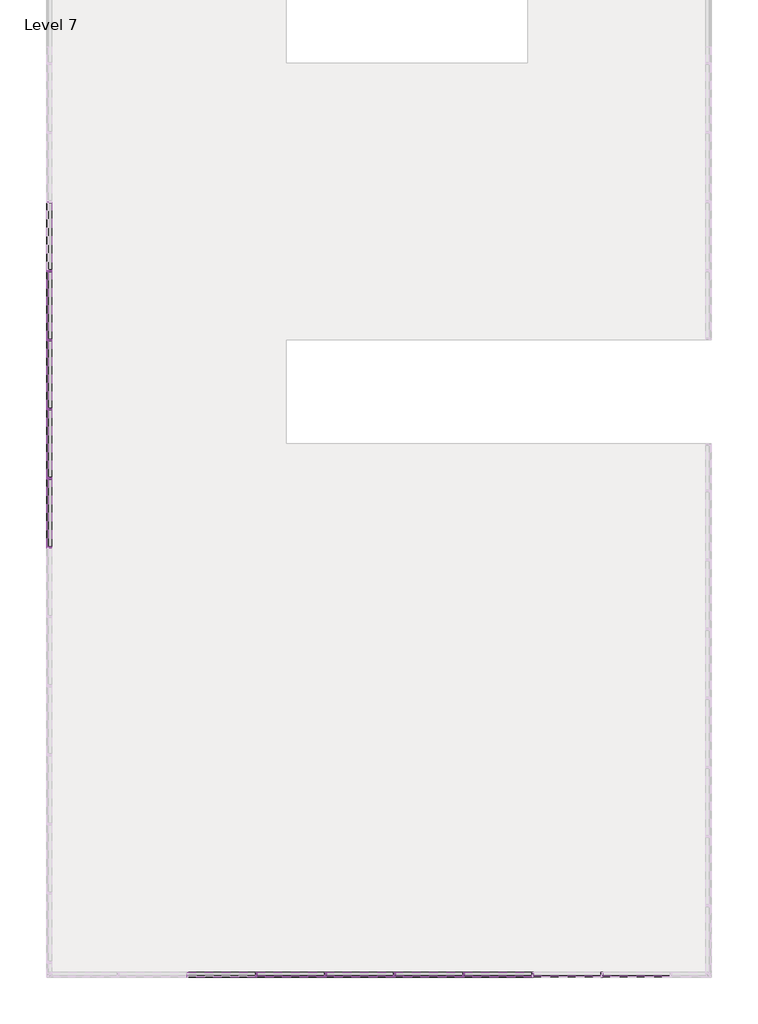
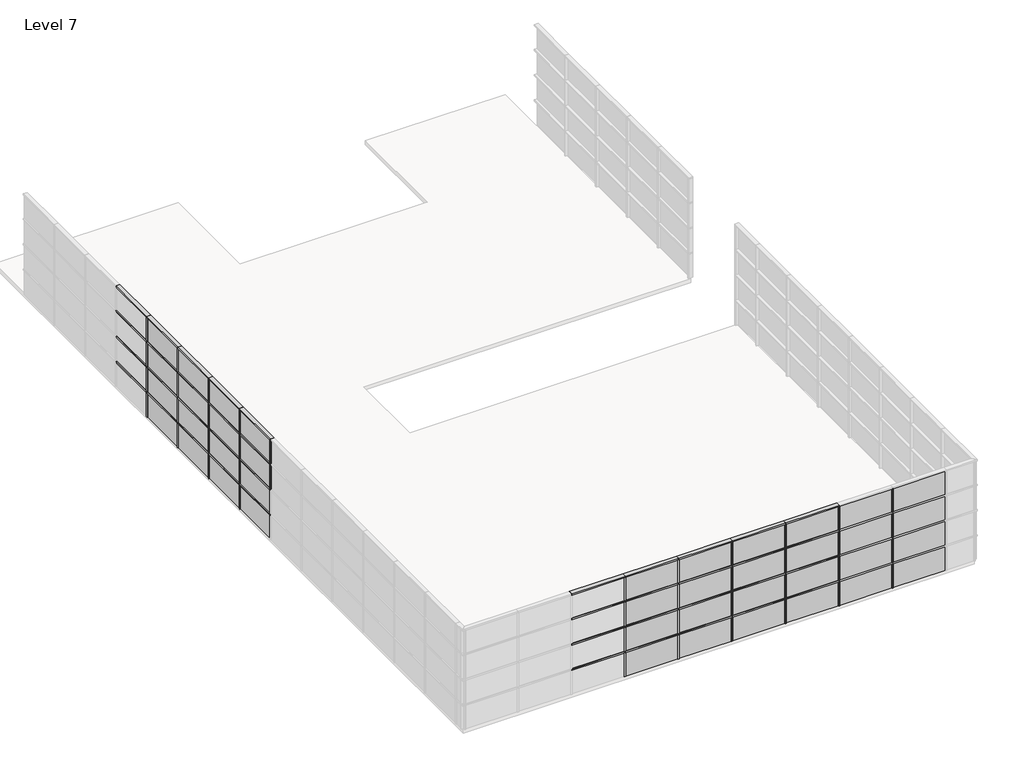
# One storey, part 2 of 5: 82 members, 40 plates.
"""IFC4 building model written with IfcOpenShell, lengths in millimetres."""

from ifc_helpers import new_model, si_unit, origin, place, context, project, spatial, transform, mapped, element, save
from components import rectangular_mullion_50_x_150mm_a053b0ca, rectangular_mullion_50_x_150mm_116cff39, rectangular_mullion_50_x_150mm_aa47fe12, rectangular_mullion_50_x_150mm_3a148f0f, system_panel_glazed_28c32ad2, system_panel_glazed_08de6f5f

model = new_model("IFC4")

# Units and contexts
model_context = context("Model", 3, world=origin())
ifc_project = project(units=[si_unit("LENGTHUNIT", "METRE", prefix="MILLI")], contexts=[model_context])

# Site, building, storey
site = spatial("IfcSite", under=ifc_project)
building = spatial("IfcBuilding", under=site)
storey = spatial("IfcBuildingStorey", under=building, Name="Level 7", Elevation=24000.0)

# Members
placement = place(None, origin())
rectangular_mullion_50_x_150mm_shape = rectangular_mullion_50_x_150mm_a053b0ca(model_context)
element("IfcMember", 1, ObjectType="Rectangular Mullion : 50 x 150mm", at=placement, inside=storey, context=model_context, shape_type="MappedRepresentation", body=[
    mapped(rectangular_mullion_50_x_150mm_shape, transform((412.826594, -21988.7417365, 24025.0), x_axis=(1.0, 0.0, 0.0), y_axis=(0.0, -1.0, 0.0), z_axis=(0.0, 0.0, -0.9999999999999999))),
])
element("IfcMember", 2, ObjectType="Rectangular Mullion : 50 x 150mm", at=placement, inside=storey, context=model_context, shape_type="MappedRepresentation", body=[
    mapped(rectangular_mullion_50_x_150mm_shape, transform((412.826594, -21988.7417365, 25025.0), x_axis=(1.0, 0.0, 0.0), y_axis=(0.0, -1.0, 0.0), z_axis=(0.0, 0.0, -0.9999999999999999))),
])
element("IfcMember", 3, ObjectType="Rectangular Mullion : 50 x 150mm", at=placement, inside=storey, context=model_context, shape_type="MappedRepresentation", body=[
    mapped(rectangular_mullion_50_x_150mm_shape, transform((412.826594, -21988.7417365, 26025.0), x_axis=(1.0, 0.0, 0.0), y_axis=(0.0, -1.0, 0.0), z_axis=(0.0, 0.0, -0.9999999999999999))),
])
element("IfcMember", 4, ObjectType="Rectangular Mullion : 50 x 150mm", at=placement, inside=storey, context=model_context, shape_type="MappedRepresentation", body=[
    mapped(rectangular_mullion_50_x_150mm_shape, transform((2412.826594, -21988.7417365, 24025.0), x_axis=(1.0, 0.0, 0.0), y_axis=(0.0, -1.0, 0.0), z_axis=(0.0, 0.0, -0.9999999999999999))),
])
element("IfcMember", 5, ObjectType="Rectangular Mullion : 50 x 150mm", at=placement, inside=storey, context=model_context, shape_type="MappedRepresentation", body=[
    mapped(rectangular_mullion_50_x_150mm_shape, transform((2412.826594, -21988.7417365, 25025.0), x_axis=(1.0, 0.0, 0.0), y_axis=(0.0, -1.0, 0.0), z_axis=(0.0, 0.0, -0.9999999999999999))),
])
element("IfcMember", 6, ObjectType="Rectangular Mullion : 50 x 150mm", at=placement, inside=storey, context=model_context, shape_type="MappedRepresentation", body=[
    mapped(rectangular_mullion_50_x_150mm_shape, transform((2412.826594, -21988.7417365, 26025.0), x_axis=(1.0, 0.0, 0.0), y_axis=(0.0, -1.0, 0.0), z_axis=(0.0, 0.0, -0.9999999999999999))),
])
element("IfcMember", 7, ObjectType="Rectangular Mullion : 50 x 150mm", at=placement, inside=storey, context=model_context, shape_type="MappedRepresentation", body=[
    mapped(rectangular_mullion_50_x_150mm_shape, transform((4412.826594, -21988.7417365, 24025.0), x_axis=(1.0, 0.0, 0.0), y_axis=(0.0, -1.0, 0.0), z_axis=(0.0, 0.0, -0.9999999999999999))),
])
element("IfcMember", 8, ObjectType="Rectangular Mullion : 50 x 150mm", at=placement, inside=storey, context=model_context, shape_type="MappedRepresentation", body=[
    mapped(rectangular_mullion_50_x_150mm_shape, transform((4412.826594, -21988.7417365, 25025.0), x_axis=(1.0, 0.0, 0.0), y_axis=(0.0, -1.0, 0.0), z_axis=(0.0, 0.0, -0.9999999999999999))),
])
element("IfcMember", 9, ObjectType="Rectangular Mullion : 50 x 150mm", at=placement, inside=storey, context=model_context, shape_type="MappedRepresentation", body=[
    mapped(rectangular_mullion_50_x_150mm_shape, transform((4412.826594, -21988.7417365, 26025.0), x_axis=(1.0, 0.0, 0.0), y_axis=(0.0, -1.0, 0.0), z_axis=(0.0, 0.0, -0.9999999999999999))),
])
element("IfcMember", 10, ObjectType="Rectangular Mullion : 50 x 150mm", at=placement, inside=storey, context=model_context, shape_type="MappedRepresentation", body=[
    mapped(rectangular_mullion_50_x_150mm_shape, transform((6412.826594, -21988.7417365, 24025.0), x_axis=(1.0, 0.0, 0.0), y_axis=(0.0, -1.0, 0.0), z_axis=(0.0, 0.0, -0.9999999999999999))),
])
element("IfcMember", 11, ObjectType="Rectangular Mullion : 50 x 150mm", at=placement, inside=storey, context=model_context, shape_type="MappedRepresentation", body=[
    mapped(rectangular_mullion_50_x_150mm_shape, transform((6412.826594, -21988.7417365, 25025.0), x_axis=(1.0, 0.0, 0.0), y_axis=(0.0, -1.0, 0.0), z_axis=(0.0, 0.0, -0.9999999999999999))),
])
element("IfcMember", 12, ObjectType="Rectangular Mullion : 50 x 150mm", at=placement, inside=storey, context=model_context, shape_type="MappedRepresentation", body=[
    mapped(rectangular_mullion_50_x_150mm_shape, transform((6412.826594, -21988.7417365, 26025.0), x_axis=(1.0, 0.0, 0.0), y_axis=(0.0, -1.0, 0.0), z_axis=(0.0, 0.0, -0.9999999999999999))),
])
element("IfcMember", 13, ObjectType="Rectangular Mullion : 50 x 150mm", at=placement, inside=storey, context=model_context, shape_type="MappedRepresentation", body=[
    mapped(rectangular_mullion_50_x_150mm_shape, transform((8412.826594, -21988.7417365, 24025.0), x_axis=(1.0, 0.0, 0.0), y_axis=(0.0, -1.0, 0.0), z_axis=(0.0, 0.0, -0.9999999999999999))),
])
element("IfcMember", 14, ObjectType="Rectangular Mullion : 50 x 150mm", at=placement, inside=storey, context=model_context, shape_type="MappedRepresentation", body=[
    mapped(rectangular_mullion_50_x_150mm_shape, transform((8412.826594, -21988.7417365, 25025.0), x_axis=(1.0, 0.0, 0.0), y_axis=(0.0, -1.0, 0.0), z_axis=(0.0, 0.0, -0.9999999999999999))),
])
element("IfcMember", 15, ObjectType="Rectangular Mullion : 50 x 150mm", at=placement, inside=storey, context=model_context, shape_type="MappedRepresentation", body=[
    mapped(rectangular_mullion_50_x_150mm_shape, transform((8412.826594, -21988.7417365, 26025.0), x_axis=(1.0, 0.0, 0.0), y_axis=(0.0, -1.0, 0.0), z_axis=(0.0, 0.0, -0.9999999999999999))),
])
element("IfcMember", 16, ObjectType="Rectangular Mullion : 50 x 150mm", at=placement, inside=storey, context=model_context, shape_type="MappedRepresentation", body=[
    mapped(rectangular_mullion_50_x_150mm_shape, transform((10412.826594, -21988.7417365, 24025.0), x_axis=(1.0, 0.0, 0.0), y_axis=(0.0, -1.0, 0.0), z_axis=(0.0, 0.0, -0.9999999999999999))),
])
element("IfcMember", 17, ObjectType="Rectangular Mullion : 50 x 150mm", at=placement, inside=storey, context=model_context, shape_type="MappedRepresentation", body=[
    mapped(rectangular_mullion_50_x_150mm_shape, transform((10412.826594, -21988.7417365, 25025.0), x_axis=(1.0, 0.0, 0.0), y_axis=(0.0, -1.0, 0.0), z_axis=(0.0, 0.0, -0.9999999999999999))),
])
element("IfcMember", 18, ObjectType="Rectangular Mullion : 50 x 150mm", at=placement, inside=storey, context=model_context, shape_type="MappedRepresentation", body=[
    mapped(rectangular_mullion_50_x_150mm_shape, transform((10412.826594, -21988.7417365, 26025.0), x_axis=(1.0, 0.0, 0.0), y_axis=(0.0, -1.0, 0.0), z_axis=(0.0, 0.0, -0.9999999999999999))),
])
element("IfcMember", 19, ObjectType="Rectangular Mullion : 50 x 150mm", at=placement, inside=storey, context=model_context, shape_type="MappedRepresentation", body=[
    mapped(rectangular_mullion_50_x_150mm_shape, transform((-5587.173406, -1624.0160434, 24025.0), x_axis=(0.0, -1.0, 0.0), y_axis=(-1.0, 0.0, 0.0), z_axis=(0.0, 0.0, -0.9999999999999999))),
])
element("IfcMember", 20, ObjectType="Rectangular Mullion : 50 x 150mm", at=placement, inside=storey, context=model_context, shape_type="MappedRepresentation", body=[
    mapped(rectangular_mullion_50_x_150mm_shape, transform((-5587.173406, -1624.0160434, 25025.0), x_axis=(0.0, -1.0, 0.0), y_axis=(-1.0, 0.0, 0.0), z_axis=(0.0, 0.0, -0.9999999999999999))),
])
element("IfcMember", 21, ObjectType="Rectangular Mullion : 50 x 150mm", at=placement, inside=storey, context=model_context, shape_type="MappedRepresentation", body=[
    mapped(rectangular_mullion_50_x_150mm_shape, transform((-5587.173406, -1624.0160434, 26025.0), x_axis=(0.0, -1.0, 0.0), y_axis=(-1.0, 0.0, 0.0), z_axis=(0.0, 0.0, -0.9999999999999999))),
])
element("IfcMember", 22, ObjectType="Rectangular Mullion : 50 x 150mm", at=placement, inside=storey, context=model_context, shape_type="MappedRepresentation", body=[
    mapped(rectangular_mullion_50_x_150mm_shape, transform((-5587.173406, -3624.0160434, 24025.0), x_axis=(0.0, -1.0, 0.0), y_axis=(-1.0, 0.0, 0.0), z_axis=(0.0, 0.0, -0.9999999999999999))),
])
element("IfcMember", 23, ObjectType="Rectangular Mullion : 50 x 150mm", at=placement, inside=storey, context=model_context, shape_type="MappedRepresentation", body=[
    mapped(rectangular_mullion_50_x_150mm_shape, transform((-5587.173406, -3624.0160434, 25025.0), x_axis=(0.0, -1.0, 0.0), y_axis=(-1.0, 0.0, 0.0), z_axis=(0.0, 0.0, -0.9999999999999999))),
])
element("IfcMember", 24, ObjectType="Rectangular Mullion : 50 x 150mm", at=placement, inside=storey, context=model_context, shape_type="MappedRepresentation", body=[
    mapped(rectangular_mullion_50_x_150mm_shape, transform((-5587.173406, -3624.0160434, 26025.0), x_axis=(0.0, -1.0, 0.0), y_axis=(-1.0, 0.0, 0.0), z_axis=(0.0, 0.0, -0.9999999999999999))),
])
element("IfcMember", 25, ObjectType="Rectangular Mullion : 50 x 150mm", at=placement, inside=storey, context=model_context, shape_type="MappedRepresentation", body=[
    mapped(rectangular_mullion_50_x_150mm_shape, transform((-5587.173406, -5624.0160434, 24025.0), x_axis=(0.0, -1.0, 0.0), y_axis=(-1.0, 0.0, 0.0), z_axis=(0.0, 0.0, -0.9999999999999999))),
])
element("IfcMember", 26, ObjectType="Rectangular Mullion : 50 x 150mm", at=placement, inside=storey, context=model_context, shape_type="MappedRepresentation", body=[
    mapped(rectangular_mullion_50_x_150mm_shape, transform((-5587.173406, -5624.0160434, 25025.0), x_axis=(0.0, -1.0, 0.0), y_axis=(-1.0, 0.0, 0.0), z_axis=(0.0, 0.0, -0.9999999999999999))),
])
element("IfcMember", 27, ObjectType="Rectangular Mullion : 50 x 150mm", at=placement, inside=storey, context=model_context, shape_type="MappedRepresentation", body=[
    mapped(rectangular_mullion_50_x_150mm_shape, transform((-5587.173406, -5624.0160434, 26025.0), x_axis=(0.0, -1.0, 0.0), y_axis=(-1.0, 0.0, 0.0), z_axis=(0.0, 0.0, -0.9999999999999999))),
])
element("IfcMember", 28, ObjectType="Rectangular Mullion : 50 x 150mm", at=placement, inside=storey, context=model_context, shape_type="MappedRepresentation", body=[
    mapped(rectangular_mullion_50_x_150mm_shape, transform((-5587.173406, -7624.0160434, 24025.0), x_axis=(0.0, -1.0, 0.0), y_axis=(-1.0, 0.0, 0.0), z_axis=(0.0, 0.0, -0.9999999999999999))),
])
element("IfcMember", 29, ObjectType="Rectangular Mullion : 50 x 150mm", at=placement, inside=storey, context=model_context, shape_type="MappedRepresentation", body=[
    mapped(rectangular_mullion_50_x_150mm_shape, transform((-5587.173406, -7624.0160434, 25025.0), x_axis=(0.0, -1.0, 0.0), y_axis=(-1.0, 0.0, 0.0), z_axis=(0.0, 0.0, -0.9999999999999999))),
])
element("IfcMember", 30, ObjectType="Rectangular Mullion : 50 x 150mm", at=placement, inside=storey, context=model_context, shape_type="MappedRepresentation", body=[
    mapped(rectangular_mullion_50_x_150mm_shape, transform((-5587.173406, -7624.0160434, 26025.0), x_axis=(0.0, -1.0, 0.0), y_axis=(-1.0, 0.0, 0.0), z_axis=(0.0, 0.0, -0.9999999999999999))),
])
element("IfcMember", 31, ObjectType="Rectangular Mullion : 50 x 150mm", at=placement, inside=storey, context=model_context, shape_type="MappedRepresentation", body=[
    mapped(rectangular_mullion_50_x_150mm_shape, transform((-5587.173406, -9624.0160434, 26025.0), x_axis=(0.0, -1.0, 0.0), y_axis=(-1.0, 0.0, 0.0), z_axis=(0.0, 0.0, -0.9999999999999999))),
])
rectangular_mullion_50_x_150mm_2_shape = rectangular_mullion_50_x_150mm_116cff39(model_context)
element("IfcMember", 32, ObjectType="Rectangular Mullion : 50 x 150mm", at=placement, inside=storey, context=model_context, shape_type="MappedRepresentation", body=[
    mapped(rectangular_mullion_50_x_150mm_2_shape, transform((412.826594, -21988.7417365, 27025.0), x_axis=(1.0, 0.0, 0.0), y_axis=(0.0, -1.0, 0.0), z_axis=(0.0, 0.0, -1.0))),
])
element("IfcMember", 33, ObjectType="Rectangular Mullion : 50 x 150mm", at=placement, inside=storey, context=model_context, shape_type="MappedRepresentation", body=[
    mapped(rectangular_mullion_50_x_150mm_2_shape, transform((2412.826594, -21988.7417365, 27025.0), x_axis=(1.0, 0.0, 0.0), y_axis=(0.0, -1.0, 0.0), z_axis=(0.0, 0.0, -1.0))),
])
element("IfcMember", 34, ObjectType="Rectangular Mullion : 50 x 150mm", at=placement, inside=storey, context=model_context, shape_type="MappedRepresentation", body=[
    mapped(rectangular_mullion_50_x_150mm_2_shape, transform((4412.826594, -21988.7417365, 27025.0), x_axis=(1.0, 0.0, 0.0), y_axis=(0.0, -1.0, 0.0), z_axis=(0.0, 0.0, -1.0))),
])
element("IfcMember", 35, ObjectType="Rectangular Mullion : 50 x 150mm", at=placement, inside=storey, context=model_context, shape_type="MappedRepresentation", body=[
    mapped(rectangular_mullion_50_x_150mm_2_shape, transform((6412.826594, -21988.7417365, 27025.0), x_axis=(1.0, 0.0, 0.0), y_axis=(0.0, -1.0, 0.0), z_axis=(0.0, 0.0, -1.0))),
])
element("IfcMember", 36, ObjectType="Rectangular Mullion : 50 x 150mm", at=placement, inside=storey, context=model_context, shape_type="MappedRepresentation", body=[
    mapped(rectangular_mullion_50_x_150mm_2_shape, transform((8412.826594, -21988.7417365, 27025.0), x_axis=(1.0, 0.0, 0.0), y_axis=(0.0, -1.0, 0.0), z_axis=(0.0, 0.0, -1.0))),
])
element("IfcMember", 37, ObjectType="Rectangular Mullion : 50 x 150mm", at=placement, inside=storey, context=model_context, shape_type="MappedRepresentation", body=[
    mapped(rectangular_mullion_50_x_150mm_2_shape, transform((10412.826594, -21988.7417365, 27025.0), x_axis=(1.0, 0.0, 0.0), y_axis=(0.0, -1.0, 0.0), z_axis=(0.0, 0.0, -1.0))),
])
element("IfcMember", 38, ObjectType="Rectangular Mullion : 50 x 150mm", at=placement, inside=storey, context=model_context, shape_type="MappedRepresentation", body=[
    mapped(rectangular_mullion_50_x_150mm_2_shape, transform((-5587.173406, -1624.0160434, 27025.0), x_axis=(0.0, -1.0, 0.0), y_axis=(-1.0, 0.0, 0.0), z_axis=(0.0, 0.0, -1.0))),
])
element("IfcMember", 39, ObjectType="Rectangular Mullion : 50 x 150mm", at=placement, inside=storey, context=model_context, shape_type="MappedRepresentation", body=[
    mapped(rectangular_mullion_50_x_150mm_2_shape, transform((-5587.173406, -3624.0160434, 27025.0), x_axis=(0.0, -1.0, 0.0), y_axis=(-1.0, 0.0, 0.0), z_axis=(0.0, 0.0, -1.0))),
])
element("IfcMember", 40, ObjectType="Rectangular Mullion : 50 x 150mm", at=placement, inside=storey, context=model_context, shape_type="MappedRepresentation", body=[
    mapped(rectangular_mullion_50_x_150mm_2_shape, transform((-5587.173406, -5624.0160434, 27025.0), x_axis=(0.0, -1.0, 0.0), y_axis=(-1.0, 0.0, 0.0), z_axis=(0.0, 0.0, -1.0))),
])
element("IfcMember", 41, ObjectType="Rectangular Mullion : 50 x 150mm", at=placement, inside=storey, context=model_context, shape_type="MappedRepresentation", body=[
    mapped(rectangular_mullion_50_x_150mm_2_shape, transform((-5587.173406, -7624.0160434, 27025.0), x_axis=(0.0, -1.0, 0.0), y_axis=(-1.0, 0.0, 0.0), z_axis=(0.0, 0.0, -1.0))),
])
element("IfcMember", 42, ObjectType="Rectangular Mullion : 50 x 150mm", at=placement, inside=storey, context=model_context, shape_type="MappedRepresentation", body=[
    mapped(rectangular_mullion_50_x_150mm_2_shape, transform((-5587.173406, -9624.0160434, 27025.0), x_axis=(0.0, -1.0, 0.0), y_axis=(-1.0, 0.0, 0.0), z_axis=(0.0, 0.0, -1.0))),
])
rectangular_mullion_50_x_150mm_3_shape = rectangular_mullion_50_x_150mm_aa47fe12(model_context)
element("IfcMember", 43, ObjectType="Rectangular Mullion : 50 x 150mm", at=placement, inside=storey, context=model_context, shape_type="MappedRepresentation", body=[
    mapped(rectangular_mullion_50_x_150mm_3_shape, transform((412.826594, -21988.7417365, 28000.0), x_axis=(0.0, 0.0, 1.0), y_axis=(0.0, -1.0, 0.0), z_axis=(1.0, 0.0, 0.0))),
])
element("IfcMember", 44, ObjectType="Rectangular Mullion : 50 x 150mm", at=placement, inside=storey, context=model_context, shape_type="MappedRepresentation", body=[
    mapped(rectangular_mullion_50_x_150mm_3_shape, transform((2412.826594, -21988.7417365, 28000.0), x_axis=(0.0, 0.0, 1.0), y_axis=(0.0, -1.0, 0.0), z_axis=(1.0, 0.0, 0.0))),
])
element("IfcMember", 45, ObjectType="Rectangular Mullion : 50 x 150mm", at=placement, inside=storey, context=model_context, shape_type="MappedRepresentation", body=[
    mapped(rectangular_mullion_50_x_150mm_3_shape, transform((4412.826594, -21988.7417365, 28000.0), x_axis=(0.0, 0.0, 1.0), y_axis=(0.0, -1.0, 0.0), z_axis=(1.0, 0.0, 0.0))),
])
element("IfcMember", 46, ObjectType="Rectangular Mullion : 50 x 150mm", at=placement, inside=storey, context=model_context, shape_type="MappedRepresentation", body=[
    mapped(rectangular_mullion_50_x_150mm_3_shape, transform((6412.826594, -21988.7417365, 28000.0), x_axis=(0.0, 0.0, 1.0), y_axis=(0.0, -1.0, 0.0), z_axis=(1.0, 0.0, 0.0))),
])
element("IfcMember", 47, ObjectType="Rectangular Mullion : 50 x 150mm", at=placement, inside=storey, context=model_context, shape_type="MappedRepresentation", body=[
    mapped(rectangular_mullion_50_x_150mm_3_shape, transform((8412.826594, -21988.7417365, 28000.0), x_axis=(0.0, 0.0, 1.0), y_axis=(0.0, -1.0, 0.0), z_axis=(1.0, 0.0, 0.0))),
])
element("IfcMember", 48, ObjectType="Rectangular Mullion : 50 x 150mm", at=placement, inside=storey, context=model_context, shape_type="MappedRepresentation", body=[
    mapped(rectangular_mullion_50_x_150mm_3_shape, transform((-5587.173406, -1624.0160434, 28000.0), x_axis=(0.0, 0.0, 1.0), y_axis=(-1.0, 0.0, 0.0), z_axis=(0.0, -1.0, 0.0))),
])
element("IfcMember", 49, ObjectType="Rectangular Mullion : 50 x 150mm", at=placement, inside=storey, context=model_context, shape_type="MappedRepresentation", body=[
    mapped(rectangular_mullion_50_x_150mm_3_shape, transform((-5587.173406, -3624.0160434, 28000.0), x_axis=(0.0, 0.0, 1.0), y_axis=(-1.0, 0.0, 0.0), z_axis=(0.0, -1.0, 0.0))),
])
element("IfcMember", 50, ObjectType="Rectangular Mullion : 50 x 150mm", at=placement, inside=storey, context=model_context, shape_type="MappedRepresentation", body=[
    mapped(rectangular_mullion_50_x_150mm_3_shape, transform((-5587.173406, -5624.0160434, 28000.0), x_axis=(0.0, 0.0, 1.0), y_axis=(-1.0, 0.0, 0.0), z_axis=(0.0, -1.0, 0.0))),
])
element("IfcMember", 51, ObjectType="Rectangular Mullion : 50 x 150mm", at=placement, inside=storey, context=model_context, shape_type="MappedRepresentation", body=[
    mapped(rectangular_mullion_50_x_150mm_3_shape, transform((-5587.173406, -7624.0160434, 28000.0), x_axis=(0.0, 0.0, 1.0), y_axis=(-1.0, 0.0, 0.0), z_axis=(0.0, -1.0, 0.0))),
])
element("IfcMember", 52, ObjectType="Rectangular Mullion : 50 x 150mm", at=placement, inside=storey, context=model_context, shape_type="MappedRepresentation", body=[
    mapped(rectangular_mullion_50_x_150mm_3_shape, transform((-5587.173406, -9624.0160434, 28000.0), x_axis=(0.0, 0.0, 1.0), y_axis=(-1.0, 0.0, 0.0), z_axis=(0.0, -1.0, 0.0))),
])
rectangular_mullion_50_x_150mm_4_shape = rectangular_mullion_50_x_150mm_3a148f0f(model_context)
element("IfcMember", 53, ObjectType="Rectangular Mullion : 50 x 150mm", at=placement, inside=storey, context=model_context, shape_type="MappedRepresentation", body=[
    mapped(rectangular_mullion_50_x_150mm_4_shape, transform((412.826594, -21988.7417365, 25000.0), x_axis=(0.0, 0.0, 1.0), y_axis=(0.0, -1.0, 0.0), z_axis=(1.0, 0.0, 0.0))),
])
element("IfcMember", 54, ObjectType="Rectangular Mullion : 50 x 150mm", at=placement, inside=storey, context=model_context, shape_type="MappedRepresentation", body=[
    mapped(rectangular_mullion_50_x_150mm_4_shape, transform((2412.826594, -21988.7417365, 25000.0), x_axis=(0.0, 0.0, 1.0), y_axis=(0.0, -1.0, 0.0), z_axis=(1.0, 0.0, 0.0))),
])
element("IfcMember", 55, ObjectType="Rectangular Mullion : 50 x 150mm", at=placement, inside=storey, context=model_context, shape_type="MappedRepresentation", body=[
    mapped(rectangular_mullion_50_x_150mm_4_shape, transform((4412.826594, -21988.7417365, 25000.0), x_axis=(0.0, 0.0, 1.0), y_axis=(0.0, -1.0, 0.0), z_axis=(1.0, 0.0, 0.0))),
])
element("IfcMember", 56, ObjectType="Rectangular Mullion : 50 x 150mm", at=placement, inside=storey, context=model_context, shape_type="MappedRepresentation", body=[
    mapped(rectangular_mullion_50_x_150mm_4_shape, transform((6412.826594, -21988.7417365, 25000.0), x_axis=(0.0, 0.0, 1.0), y_axis=(0.0, -1.0, 0.0), z_axis=(1.0, 0.0, 0.0))),
])
element("IfcMember", 57, ObjectType="Rectangular Mullion : 50 x 150mm", at=placement, inside=storey, context=model_context, shape_type="MappedRepresentation", body=[
    mapped(rectangular_mullion_50_x_150mm_4_shape, transform((8412.826594, -21988.7417365, 25000.0), x_axis=(0.0, 0.0, 1.0), y_axis=(0.0, -1.0, 0.0), z_axis=(1.0, 0.0, 0.0))),
])
element("IfcMember", 58, ObjectType="Rectangular Mullion : 50 x 150mm", at=placement, inside=storey, context=model_context, shape_type="MappedRepresentation", body=[
    mapped(rectangular_mullion_50_x_150mm_4_shape, transform((412.826594, -21988.7417365, 26000.0), x_axis=(0.0, 0.0, 1.0), y_axis=(0.0, -1.0, 0.0), z_axis=(1.0, 0.0, 0.0))),
])
element("IfcMember", 59, ObjectType="Rectangular Mullion : 50 x 150mm", at=placement, inside=storey, context=model_context, shape_type="MappedRepresentation", body=[
    mapped(rectangular_mullion_50_x_150mm_4_shape, transform((2412.826594, -21988.7417365, 26000.0), x_axis=(0.0, 0.0, 1.0), y_axis=(0.0, -1.0, 0.0), z_axis=(1.0, 0.0, 0.0))),
])
element("IfcMember", 60, ObjectType="Rectangular Mullion : 50 x 150mm", at=placement, inside=storey, context=model_context, shape_type="MappedRepresentation", body=[
    mapped(rectangular_mullion_50_x_150mm_4_shape, transform((4412.826594, -21988.7417365, 26000.0), x_axis=(0.0, 0.0, 1.0), y_axis=(0.0, -1.0, 0.0), z_axis=(1.0, 0.0, 0.0))),
])
element("IfcMember", 61, ObjectType="Rectangular Mullion : 50 x 150mm", at=placement, inside=storey, context=model_context, shape_type="MappedRepresentation", body=[
    mapped(rectangular_mullion_50_x_150mm_4_shape, transform((6412.826594, -21988.7417365, 26000.0), x_axis=(0.0, 0.0, 1.0), y_axis=(0.0, -1.0, 0.0), z_axis=(1.0, 0.0, 0.0))),
])
element("IfcMember", 62, ObjectType="Rectangular Mullion : 50 x 150mm", at=placement, inside=storey, context=model_context, shape_type="MappedRepresentation", body=[
    mapped(rectangular_mullion_50_x_150mm_4_shape, transform((8412.826594, -21988.7417365, 26000.0), x_axis=(0.0, 0.0, 1.0), y_axis=(0.0, -1.0, 0.0), z_axis=(1.0, 0.0, 0.0))),
])
element("IfcMember", 63, ObjectType="Rectangular Mullion : 50 x 150mm", at=placement, inside=storey, context=model_context, shape_type="MappedRepresentation", body=[
    mapped(rectangular_mullion_50_x_150mm_4_shape, transform((412.826594, -21988.7417365, 27000.0), x_axis=(0.0, 0.0, 1.0), y_axis=(0.0, -1.0, 0.0), z_axis=(1.0, 0.0, 0.0))),
])
element("IfcMember", 64, ObjectType="Rectangular Mullion : 50 x 150mm", at=placement, inside=storey, context=model_context, shape_type="MappedRepresentation", body=[
    mapped(rectangular_mullion_50_x_150mm_4_shape, transform((2412.826594, -21988.7417365, 27000.0), x_axis=(0.0, 0.0, 1.0), y_axis=(0.0, -1.0, 0.0), z_axis=(1.0, 0.0, 0.0))),
])
element("IfcMember", 65, ObjectType="Rectangular Mullion : 50 x 150mm", at=placement, inside=storey, context=model_context, shape_type="MappedRepresentation", body=[
    mapped(rectangular_mullion_50_x_150mm_4_shape, transform((4412.826594, -21988.7417365, 27000.0), x_axis=(0.0, 0.0, 1.0), y_axis=(0.0, -1.0, 0.0), z_axis=(1.0, 0.0, 0.0))),
])
element("IfcMember", 66, ObjectType="Rectangular Mullion : 50 x 150mm", at=placement, inside=storey, context=model_context, shape_type="MappedRepresentation", body=[
    mapped(rectangular_mullion_50_x_150mm_4_shape, transform((6412.826594, -21988.7417365, 27000.0), x_axis=(0.0, 0.0, 1.0), y_axis=(0.0, -1.0, 0.0), z_axis=(1.0, 0.0, 0.0))),
])
element("IfcMember", 67, ObjectType="Rectangular Mullion : 50 x 150mm", at=placement, inside=storey, context=model_context, shape_type="MappedRepresentation", body=[
    mapped(rectangular_mullion_50_x_150mm_4_shape, transform((8412.826594, -21988.7417365, 27000.0), x_axis=(0.0, 0.0, 1.0), y_axis=(0.0, -1.0, 0.0), z_axis=(1.0, 0.0, 0.0))),
])
element("IfcMember", 68, ObjectType="Rectangular Mullion : 50 x 150mm", at=placement, inside=storey, context=model_context, shape_type="MappedRepresentation", body=[
    mapped(rectangular_mullion_50_x_150mm_4_shape, transform((-5587.173406, -1624.0160434, 25000.0), x_axis=(0.0, 0.0, 1.0), y_axis=(-1.0, 0.0, 0.0), z_axis=(0.0, -1.0, 0.0))),
])
element("IfcMember", 69, ObjectType="Rectangular Mullion : 50 x 150mm", at=placement, inside=storey, context=model_context, shape_type="MappedRepresentation", body=[
    mapped(rectangular_mullion_50_x_150mm_4_shape, transform((-5587.173406, -3624.0160434, 25000.0), x_axis=(0.0, 0.0, 1.0), y_axis=(-1.0, 0.0, 0.0), z_axis=(0.0, -1.0, 0.0))),
])
element("IfcMember", 70, ObjectType="Rectangular Mullion : 50 x 150mm", at=placement, inside=storey, context=model_context, shape_type="MappedRepresentation", body=[
    mapped(rectangular_mullion_50_x_150mm_4_shape, transform((-5587.173406, -5624.0160434, 25000.0), x_axis=(0.0, 0.0, 1.0), y_axis=(-1.0, 0.0, 0.0), z_axis=(0.0, -1.0, 0.0))),
])
element("IfcMember", 71, ObjectType="Rectangular Mullion : 50 x 150mm", at=placement, inside=storey, context=model_context, shape_type="MappedRepresentation", body=[
    mapped(rectangular_mullion_50_x_150mm_4_shape, transform((-5587.173406, -7624.0160434, 25000.0), x_axis=(0.0, 0.0, 1.0), y_axis=(-1.0, 0.0, 0.0), z_axis=(0.0, -1.0, 0.0))),
])
element("IfcMember", 72, ObjectType="Rectangular Mullion : 50 x 150mm", at=placement, inside=storey, context=model_context, shape_type="MappedRepresentation", body=[
    mapped(rectangular_mullion_50_x_150mm_4_shape, transform((-5587.173406, -9624.0160434, 25000.0), x_axis=(0.0, 0.0, 1.0), y_axis=(-1.0, 0.0, 0.0), z_axis=(0.0, -1.0, 0.0))),
])
element("IfcMember", 73, ObjectType="Rectangular Mullion : 50 x 150mm", at=placement, inside=storey, context=model_context, shape_type="MappedRepresentation", body=[
    mapped(rectangular_mullion_50_x_150mm_4_shape, transform((-5587.173406, -1624.0160434, 26000.0), x_axis=(0.0, 0.0, 1.0), y_axis=(-1.0, 0.0, 0.0), z_axis=(0.0, -1.0, 0.0))),
])
element("IfcMember", 74, ObjectType="Rectangular Mullion : 50 x 150mm", at=placement, inside=storey, context=model_context, shape_type="MappedRepresentation", body=[
    mapped(rectangular_mullion_50_x_150mm_4_shape, transform((-5587.173406, -3624.0160434, 26000.0), x_axis=(0.0, 0.0, 1.0), y_axis=(-1.0, 0.0, 0.0), z_axis=(0.0, -1.0, 0.0))),
])
element("IfcMember", 75, ObjectType="Rectangular Mullion : 50 x 150mm", at=placement, inside=storey, context=model_context, shape_type="MappedRepresentation", body=[
    mapped(rectangular_mullion_50_x_150mm_4_shape, transform((-5587.173406, -5624.0160434, 26000.0), x_axis=(0.0, 0.0, 1.0), y_axis=(-1.0, 0.0, 0.0), z_axis=(0.0, -1.0, 0.0))),
])
element("IfcMember", 76, ObjectType="Rectangular Mullion : 50 x 150mm", at=placement, inside=storey, context=model_context, shape_type="MappedRepresentation", body=[
    mapped(rectangular_mullion_50_x_150mm_4_shape, transform((-5587.173406, -7624.0160434, 26000.0), x_axis=(0.0, 0.0, 1.0), y_axis=(-1.0, 0.0, 0.0), z_axis=(0.0, -1.0, 0.0))),
])
element("IfcMember", 77, ObjectType="Rectangular Mullion : 50 x 150mm", at=placement, inside=storey, context=model_context, shape_type="MappedRepresentation", body=[
    mapped(rectangular_mullion_50_x_150mm_4_shape, transform((-5587.173406, -9624.0160434, 26000.0), x_axis=(0.0, 0.0, 1.0), y_axis=(-1.0, 0.0, 0.0), z_axis=(0.0, -1.0, 0.0))),
])
element("IfcMember", 78, ObjectType="Rectangular Mullion : 50 x 150mm", at=placement, inside=storey, context=model_context, shape_type="MappedRepresentation", body=[
    mapped(rectangular_mullion_50_x_150mm_4_shape, transform((-5587.173406, -1624.0160434, 27000.0), x_axis=(0.0, 0.0, 1.0), y_axis=(-1.0, 0.0, 0.0), z_axis=(0.0, -1.0, 0.0))),
])
element("IfcMember", 79, ObjectType="Rectangular Mullion : 50 x 150mm", at=placement, inside=storey, context=model_context, shape_type="MappedRepresentation", body=[
    mapped(rectangular_mullion_50_x_150mm_4_shape, transform((-5587.173406, -3624.0160434, 27000.0), x_axis=(0.0, 0.0, 1.0), y_axis=(-1.0, 0.0, 0.0), z_axis=(0.0, -1.0, 0.0))),
])
element("IfcMember", 80, ObjectType="Rectangular Mullion : 50 x 150mm", at=placement, inside=storey, context=model_context, shape_type="MappedRepresentation", body=[
    mapped(rectangular_mullion_50_x_150mm_4_shape, transform((-5587.173406, -5624.0160434, 27000.0), x_axis=(0.0, 0.0, 1.0), y_axis=(-1.0, 0.0, 0.0), z_axis=(0.0, -1.0, 0.0))),
])
element("IfcMember", 81, ObjectType="Rectangular Mullion : 50 x 150mm", at=placement, inside=storey, context=model_context, shape_type="MappedRepresentation", body=[
    mapped(rectangular_mullion_50_x_150mm_4_shape, transform((-5587.173406, -7624.0160434, 27000.0), x_axis=(0.0, 0.0, 1.0), y_axis=(-1.0, 0.0, 0.0), z_axis=(0.0, -1.0, 0.0))),
])
element("IfcMember", 82, ObjectType="Rectangular Mullion : 50 x 150mm", at=placement, inside=storey, context=model_context, shape_type="MappedRepresentation", body=[
    mapped(rectangular_mullion_50_x_150mm_4_shape, transform((-5587.173406, -9624.0160434, 27000.0), x_axis=(0.0, 0.0, 1.0), y_axis=(-1.0, 0.0, 0.0), z_axis=(0.0, -1.0, 0.0))),
])

# Plates
system_panel_glazed_shape = system_panel_glazed_28c32ad2(model_context)
element("IfcPlate", 83, ObjectType="System Panel : Glazed", at=placement, inside=storey, context=model_context, shape_type="MappedRepresentation", body=[
    mapped(system_panel_glazed_shape, transform((-5587.173406, -1649.0160434, 27487.5), x_axis=(0.0, 0.0, 1.0), y_axis=(-1.0, 0.0, 0.0), z_axis=(0.0, -1.0, 0.0))),
])
element("IfcPlate", 84, ObjectType="System Panel : Glazed", at=placement, inside=storey, context=model_context, shape_type="MappedRepresentation", body=[
    mapped(system_panel_glazed_shape, transform((-5587.173406, -3649.0160434, 27487.5), x_axis=(0.0, 0.0, 1.0), y_axis=(-1.0, 0.0, 0.0), z_axis=(0.0, -1.0, 0.0))),
])
element("IfcPlate", 85, ObjectType="System Panel : Glazed", at=placement, inside=storey, context=model_context, shape_type="MappedRepresentation", body=[
    mapped(system_panel_glazed_shape, transform((-5587.173406, -5649.0160434, 27487.5), x_axis=(0.0, 0.0, 1.0), y_axis=(-1.0, 0.0, 0.0), z_axis=(0.0, -1.0, 0.0))),
])
element("IfcPlate", 86, ObjectType="System Panel : Glazed", at=placement, inside=storey, context=model_context, shape_type="MappedRepresentation", body=[
    mapped(system_panel_glazed_shape, transform((-5587.173406, -7649.0160434, 27487.5), x_axis=(0.0, 0.0, 1.0), y_axis=(-1.0, 0.0, 0.0), z_axis=(0.0, -1.0, 0.0))),
])
element("IfcPlate", 87, ObjectType="System Panel : Glazed", at=placement, inside=storey, context=model_context, shape_type="MappedRepresentation", body=[
    mapped(system_panel_glazed_shape, transform((437.826594, -21988.7417365, 27487.5), x_axis=(0.0, 0.0, 1.0), y_axis=(0.0, -1.0, 0.0), z_axis=(1.0, 0.0, 0.0))),
])
element("IfcPlate", 88, ObjectType="System Panel : Glazed", at=placement, inside=storey, context=model_context, shape_type="MappedRepresentation", body=[
    mapped(system_panel_glazed_shape, transform((2437.826594, -21988.7417365, 27487.5), x_axis=(0.0, 0.0, 1.0), y_axis=(0.0, -1.0, 0.0), z_axis=(1.0, 0.0, 0.0))),
])
element("IfcPlate", 89, ObjectType="System Panel : Glazed", at=placement, inside=storey, context=model_context, shape_type="MappedRepresentation", body=[
    mapped(system_panel_glazed_shape, transform((4437.826594, -21988.7417365, 27487.5), x_axis=(0.0, 0.0, 1.0), y_axis=(0.0, -1.0, 0.0), z_axis=(1.0, 0.0, 0.0))),
])
element("IfcPlate", 90, ObjectType="System Panel : Glazed", at=placement, inside=storey, context=model_context, shape_type="MappedRepresentation", body=[
    mapped(system_panel_glazed_shape, transform((6437.826594, -21988.7417365, 27487.5), x_axis=(0.0, 0.0, 1.0), y_axis=(0.0, -1.0, 0.0), z_axis=(1.0, 0.0, 0.0))),
])
element("IfcPlate", 91, ObjectType="System Panel : Glazed", at=placement, inside=storey, context=model_context, shape_type="MappedRepresentation", body=[
    mapped(system_panel_glazed_shape, transform((8437.826594, -21988.7417365, 27487.5), x_axis=(0.0, 0.0, 1.0), y_axis=(0.0, -1.0, 0.0), z_axis=(1.0, 0.0, 0.0))),
])
element("IfcPlate", 92, ObjectType="System Panel : Glazed", at=placement, inside=storey, context=model_context, shape_type="MappedRepresentation", body=[
    mapped(system_panel_glazed_shape, transform((10437.826594, -21988.7417365, 27487.5), x_axis=(0.0, 0.0, 1.0), y_axis=(0.0, -1.0, 0.0), z_axis=(1.0, 0.0, 0.0))),
])
system_panel_glazed_2_shape = system_panel_glazed_08de6f5f(model_context)
element("IfcPlate", 93, ObjectType="System Panel : Glazed", at=placement, inside=storey, context=model_context, shape_type="MappedRepresentation", body=[
    mapped(system_panel_glazed_2_shape, transform((-5587.173406, -1649.0160434, 24500.0), x_axis=(0.0, 0.0, 1.0), y_axis=(-1.0, 0.0, 0.0), z_axis=(0.0, -1.0, 0.0))),
])
element("IfcPlate", 94, ObjectType="System Panel : Glazed", at=placement, inside=storey, context=model_context, shape_type="MappedRepresentation", body=[
    mapped(system_panel_glazed_2_shape, transform((-5587.173406, -3649.0160434, 24500.0), x_axis=(0.0, 0.0, 1.0), y_axis=(-1.0, 0.0, 0.0), z_axis=(0.0, -1.0, 0.0))),
])
element("IfcPlate", 95, ObjectType="System Panel : Glazed", at=placement, inside=storey, context=model_context, shape_type="MappedRepresentation", body=[
    mapped(system_panel_glazed_2_shape, transform((-5587.173406, -5649.0160434, 24500.0), x_axis=(0.0, 0.0, 1.0), y_axis=(-1.0, 0.0, 0.0), z_axis=(0.0, -1.0, 0.0))),
])
element("IfcPlate", 96, ObjectType="System Panel : Glazed", at=placement, inside=storey, context=model_context, shape_type="MappedRepresentation", body=[
    mapped(system_panel_glazed_2_shape, transform((-5587.173406, -7649.0160434, 24500.0), x_axis=(0.0, 0.0, 1.0), y_axis=(-1.0, 0.0, 0.0), z_axis=(0.0, -1.0, 0.0))),
])
element("IfcPlate", 97, ObjectType="System Panel : Glazed", at=placement, inside=storey, context=model_context, shape_type="MappedRepresentation", body=[
    mapped(system_panel_glazed_2_shape, transform((-5587.173406, -1649.0160434, 25500.0), x_axis=(0.0, 0.0, 1.0), y_axis=(-1.0, 0.0, 0.0), z_axis=(0.0, -1.0, 0.0))),
])
element("IfcPlate", 98, ObjectType="System Panel : Glazed", at=placement, inside=storey, context=model_context, shape_type="MappedRepresentation", body=[
    mapped(system_panel_glazed_2_shape, transform((-5587.173406, -3649.0160434, 25500.0), x_axis=(0.0, 0.0, 1.0), y_axis=(-1.0, 0.0, 0.0), z_axis=(0.0, -1.0, 0.0))),
])
element("IfcPlate", 99, ObjectType="System Panel : Glazed", at=placement, inside=storey, context=model_context, shape_type="MappedRepresentation", body=[
    mapped(system_panel_glazed_2_shape, transform((-5587.173406, -5649.0160434, 25500.0), x_axis=(0.0, 0.0, 1.0), y_axis=(-1.0, 0.0, 0.0), z_axis=(0.0, -1.0, 0.0))),
])
element("IfcPlate", 100, ObjectType="System Panel : Glazed", at=placement, inside=storey, context=model_context, shape_type="MappedRepresentation", body=[
    mapped(system_panel_glazed_2_shape, transform((-5587.173406, -7649.0160434, 25500.0), x_axis=(0.0, 0.0, 1.0), y_axis=(-1.0, 0.0, 0.0), z_axis=(0.0, -1.0, 0.0))),
])
element("IfcPlate", 101, ObjectType="System Panel : Glazed", at=placement, inside=storey, context=model_context, shape_type="MappedRepresentation", body=[
    mapped(system_panel_glazed_2_shape, transform((-5587.173406, -1649.0160434, 26500.0), x_axis=(0.0, 0.0, 1.0), y_axis=(-1.0, 0.0, 0.0), z_axis=(0.0, -1.0, 0.0))),
])
element("IfcPlate", 102, ObjectType="System Panel : Glazed", at=placement, inside=storey, context=model_context, shape_type="MappedRepresentation", body=[
    mapped(system_panel_glazed_2_shape, transform((-5587.173406, -3649.0160434, 26500.0), x_axis=(0.0, 0.0, 1.0), y_axis=(-1.0, 0.0, 0.0), z_axis=(0.0, -1.0, 0.0))),
])
element("IfcPlate", 103, ObjectType="System Panel : Glazed", at=placement, inside=storey, context=model_context, shape_type="MappedRepresentation", body=[
    mapped(system_panel_glazed_2_shape, transform((-5587.173406, -5649.0160434, 26500.0), x_axis=(0.0, 0.0, 1.0), y_axis=(-1.0, 0.0, 0.0), z_axis=(0.0, -1.0, 0.0))),
])
element("IfcPlate", 104, ObjectType="System Panel : Glazed", at=placement, inside=storey, context=model_context, shape_type="MappedRepresentation", body=[
    mapped(system_panel_glazed_2_shape, transform((-5587.173406, -7649.0160434, 26500.0), x_axis=(0.0, 0.0, 1.0), y_axis=(-1.0, 0.0, 0.0), z_axis=(0.0, -1.0, 0.0))),
])
element("IfcPlate", 105, ObjectType="System Panel : Glazed", at=placement, inside=storey, context=model_context, shape_type="MappedRepresentation", body=[
    mapped(system_panel_glazed_2_shape, transform((437.826594, -21988.7417365, 24500.0), x_axis=(0.0, 0.0, 1.0), y_axis=(0.0, -1.0, 0.0), z_axis=(1.0, 0.0, 0.0))),
])
element("IfcPlate", 106, ObjectType="System Panel : Glazed", at=placement, inside=storey, context=model_context, shape_type="MappedRepresentation", body=[
    mapped(system_panel_glazed_2_shape, transform((2437.826594, -21988.7417365, 24500.0), x_axis=(0.0, 0.0, 1.0), y_axis=(0.0, -1.0, 0.0), z_axis=(1.0, 0.0, 0.0))),
])
element("IfcPlate", 107, ObjectType="System Panel : Glazed", at=placement, inside=storey, context=model_context, shape_type="MappedRepresentation", body=[
    mapped(system_panel_glazed_2_shape, transform((4437.826594, -21988.7417365, 24500.0), x_axis=(0.0, 0.0, 1.0), y_axis=(0.0, -1.0, 0.0), z_axis=(1.0, 0.0, 0.0))),
])
element("IfcPlate", 108, ObjectType="System Panel : Glazed", at=placement, inside=storey, context=model_context, shape_type="MappedRepresentation", body=[
    mapped(system_panel_glazed_2_shape, transform((6437.826594, -21988.7417365, 24500.0), x_axis=(0.0, 0.0, 1.0), y_axis=(0.0, -1.0, 0.0), z_axis=(1.0, 0.0, 0.0))),
])
element("IfcPlate", 109, ObjectType="System Panel : Glazed", at=placement, inside=storey, context=model_context, shape_type="MappedRepresentation", body=[
    mapped(system_panel_glazed_2_shape, transform((8437.826594, -21988.7417365, 24500.0), x_axis=(0.0, 0.0, 1.0), y_axis=(0.0, -1.0, 0.0), z_axis=(1.0, 0.0, 0.0))),
])
element("IfcPlate", 110, ObjectType="System Panel : Glazed", at=placement, inside=storey, context=model_context, shape_type="MappedRepresentation", body=[
    mapped(system_panel_glazed_2_shape, transform((10437.826594, -21988.7417365, 24500.0), x_axis=(0.0, 0.0, 1.0), y_axis=(0.0, -1.0, 0.0), z_axis=(1.0, 0.0, 0.0))),
])
element("IfcPlate", 111, ObjectType="System Panel : Glazed", at=placement, inside=storey, context=model_context, shape_type="MappedRepresentation", body=[
    mapped(system_panel_glazed_2_shape, transform((437.826594, -21988.7417365, 25500.0), x_axis=(0.0, 0.0, 1.0), y_axis=(0.0, -1.0, 0.0), z_axis=(1.0, 0.0, 0.0))),
])
element("IfcPlate", 112, ObjectType="System Panel : Glazed", at=placement, inside=storey, context=model_context, shape_type="MappedRepresentation", body=[
    mapped(system_panel_glazed_2_shape, transform((2437.826594, -21988.7417365, 25500.0), x_axis=(0.0, 0.0, 1.0), y_axis=(0.0, -1.0, 0.0), z_axis=(1.0, 0.0, 0.0))),
])
element("IfcPlate", 113, ObjectType="System Panel : Glazed", at=placement, inside=storey, context=model_context, shape_type="MappedRepresentation", body=[
    mapped(system_panel_glazed_2_shape, transform((4437.826594, -21988.7417365, 25500.0), x_axis=(0.0, 0.0, 1.0), y_axis=(0.0, -1.0, 0.0), z_axis=(1.0, 0.0, 0.0))),
])
element("IfcPlate", 114, ObjectType="System Panel : Glazed", at=placement, inside=storey, context=model_context, shape_type="MappedRepresentation", body=[
    mapped(system_panel_glazed_2_shape, transform((6437.826594, -21988.7417365, 25500.0), x_axis=(0.0, 0.0, 1.0), y_axis=(0.0, -1.0, 0.0), z_axis=(1.0, 0.0, 0.0))),
])
element("IfcPlate", 115, ObjectType="System Panel : Glazed", at=placement, inside=storey, context=model_context, shape_type="MappedRepresentation", body=[
    mapped(system_panel_glazed_2_shape, transform((8437.826594, -21988.7417365, 25500.0), x_axis=(0.0, 0.0, 1.0), y_axis=(0.0, -1.0, 0.0), z_axis=(1.0, 0.0, 0.0))),
])
element("IfcPlate", 116, ObjectType="System Panel : Glazed", at=placement, inside=storey, context=model_context, shape_type="MappedRepresentation", body=[
    mapped(system_panel_glazed_2_shape, transform((10437.826594, -21988.7417365, 25500.0), x_axis=(0.0, 0.0, 1.0), y_axis=(0.0, -1.0, 0.0), z_axis=(1.0, 0.0, 0.0))),
])
element("IfcPlate", 117, ObjectType="System Panel : Glazed", at=placement, inside=storey, context=model_context, shape_type="MappedRepresentation", body=[
    mapped(system_panel_glazed_2_shape, transform((437.826594, -21988.7417365, 26500.0), x_axis=(0.0, 0.0, 1.0), y_axis=(0.0, -1.0, 0.0), z_axis=(1.0, 0.0, 0.0))),
])
element("IfcPlate", 118, ObjectType="System Panel : Glazed", at=placement, inside=storey, context=model_context, shape_type="MappedRepresentation", body=[
    mapped(system_panel_glazed_2_shape, transform((2437.826594, -21988.7417365, 26500.0), x_axis=(0.0, 0.0, 1.0), y_axis=(0.0, -1.0, 0.0), z_axis=(1.0, 0.0, 0.0))),
])
element("IfcPlate", 119, ObjectType="System Panel : Glazed", at=placement, inside=storey, context=model_context, shape_type="MappedRepresentation", body=[
    mapped(system_panel_glazed_2_shape, transform((4437.826594, -21988.7417365, 26500.0), x_axis=(0.0, 0.0, 1.0), y_axis=(0.0, -1.0, 0.0), z_axis=(1.0, 0.0, 0.0))),
])
element("IfcPlate", 120, ObjectType="System Panel : Glazed", at=placement, inside=storey, context=model_context, shape_type="MappedRepresentation", body=[
    mapped(system_panel_glazed_2_shape, transform((6437.826594, -21988.7417365, 26500.0), x_axis=(0.0, 0.0, 1.0), y_axis=(0.0, -1.0, 0.0), z_axis=(1.0, 0.0, 0.0))),
])
element("IfcPlate", 121, ObjectType="System Panel : Glazed", at=placement, inside=storey, context=model_context, shape_type="MappedRepresentation", body=[
    mapped(system_panel_glazed_2_shape, transform((8437.826594, -21988.7417365, 26500.0), x_axis=(0.0, 0.0, 1.0), y_axis=(0.0, -1.0, 0.0), z_axis=(1.0, 0.0, 0.0))),
])
element("IfcPlate", 122, ObjectType="System Panel : Glazed", at=placement, inside=storey, context=model_context, shape_type="MappedRepresentation", body=[
    mapped(system_panel_glazed_2_shape, transform((10437.826594, -21988.7417365, 26500.0), x_axis=(0.0, 0.0, 1.0), y_axis=(0.0, -1.0, 0.0), z_axis=(1.0, 0.0, 0.0))),
])

save(model, "model.ifc")
